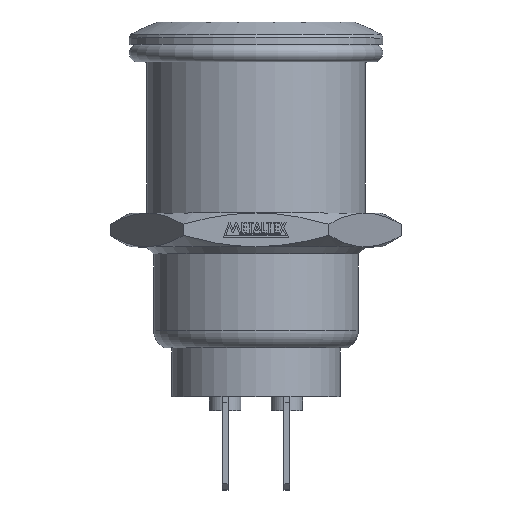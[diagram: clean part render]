
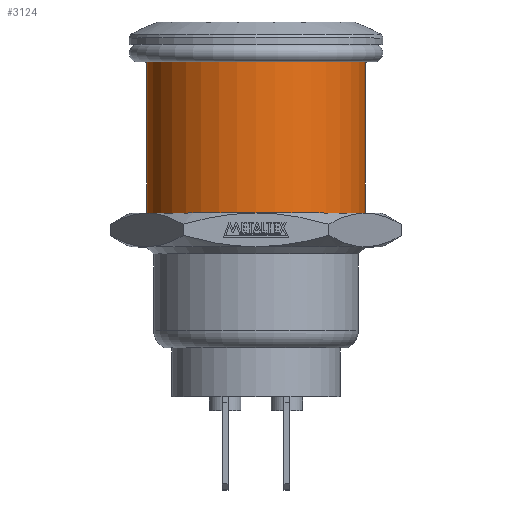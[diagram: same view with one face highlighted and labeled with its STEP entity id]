
A CAD part, top view. The second image highlights one B-rep face of the part: STEP entity #3124.
In plain terms, the highlighted cylindrical face has radius 9.4 mm (diameter 18.8 mm), a partial arc.
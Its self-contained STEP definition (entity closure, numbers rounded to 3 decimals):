
#604 = VERTEX_POINT ( 'NONE', #5096 ) ;
#618 = VERTEX_POINT ( 'NONE', #5110 ) ;
#620 = VERTEX_POINT ( 'NONE', #5112 ) ;
#622 = VERTEX_POINT ( 'NONE', #5114 ) ;
#2007 = ORIENTED_EDGE ( 'NONE', *, *, #7906, .F. ) ;
#2008 = ORIENTED_EDGE ( 'NONE', *, *, #7899, .T. ) ;
#2017 = ORIENTED_EDGE ( 'NONE', *, *, #7898, .T. ) ;
#2018 = ORIENTED_EDGE ( 'NONE', *, *, #7907, .F. ) ;
#2509 = EDGE_LOOP ( 'NONE', ( #2017, #2008, #2018, #2007 ) ) ;
#3124 = ADVANCED_FACE ( 'NONE', ( #6302 ), #6297, .T. ) ;
#4236 = VECTOR ( 'NONE', #7096, 1000. ) ;
#4240 = AXIS2_PLACEMENT_3D ( 'NONE', #7093, #7097, #7098 ) ;
#4253 = VECTOR ( 'NONE', #7070, 1000. ) ;
#4266 = AXIS2_PLACEMENT_3D ( 'NONE', #7064, #7065, #7066 ) ;
#5096 = CARTESIAN_POINT ( 'NONE',  ( -9.4, 11.582, 0. ) ) ;
#5110 = CARTESIAN_POINT ( 'NONE',  ( 9.4, 25.332, 0. ) ) ;
#5112 = CARTESIAN_POINT ( 'NONE',  ( 9.4, 11.582, 0. ) ) ;
#5114 = CARTESIAN_POINT ( 'NONE',  ( -9.4, 25.332, 0. ) ) ;
#5145 = CARTESIAN_POINT ( 'NONE',  ( 0., 0., 0. ) ) ;
#5146 = DIRECTION ( 'NONE',  ( 0., 1., 0. ) ) ;
#5147 = DIRECTION ( 'NONE',  ( -1., 0., 0. ) ) ;
#6297 = CYLINDRICAL_SURFACE ( 'NONE', #6304, 9.4 ) ;
#6302 = FACE_OUTER_BOUND ( 'NONE', #2509, .T. ) ;
#6304 = AXIS2_PLACEMENT_3D ( 'NONE', #5145, #5146, #5147 ) ;
#6482 = CIRCLE ( 'NONE', #4266, 9.4 ) ;
#6490 = CIRCLE ( 'NONE', #4240, 9.4 ) ;
#7064 = CARTESIAN_POINT ( 'NONE',  ( 0., 11.582, 0. ) ) ;
#7065 = DIRECTION ( 'NONE',  ( 0., 1., 0. ) ) ;
#7066 = DIRECTION ( 'NONE',  ( -1., 0., 0. ) ) ;
#7068 = LINE ( 'NONE', #7069, #4253 ) ;
#7069 = CARTESIAN_POINT ( 'NONE',  ( 9.4, 0., 0. ) ) ;
#7070 = DIRECTION ( 'NONE',  ( 0., 1., 0. ) ) ;
#7093 = CARTESIAN_POINT ( 'NONE',  ( 0., 25.332, 0. ) ) ;
#7094 = LINE ( 'NONE', #7095, #4236 ) ;
#7095 = CARTESIAN_POINT ( 'NONE',  ( -9.4, 0., 0. ) ) ;
#7096 = DIRECTION ( 'NONE',  ( 0., 1., 0. ) ) ;
#7097 = DIRECTION ( 'NONE',  ( 0., 1., 0. ) ) ;
#7098 = DIRECTION ( 'NONE',  ( -1., 0., 0. ) ) ;
#7898 = EDGE_CURVE ( 'NONE', #604, #620, #6482, .T. ) ;
#7899 = EDGE_CURVE ( 'NONE', #620, #618, #7068, .T. ) ;
#7906 = EDGE_CURVE ( 'NONE', #604, #622, #7094, .T. ) ;
#7907 = EDGE_CURVE ( 'NONE', #622, #618, #6490, .T. ) ;
